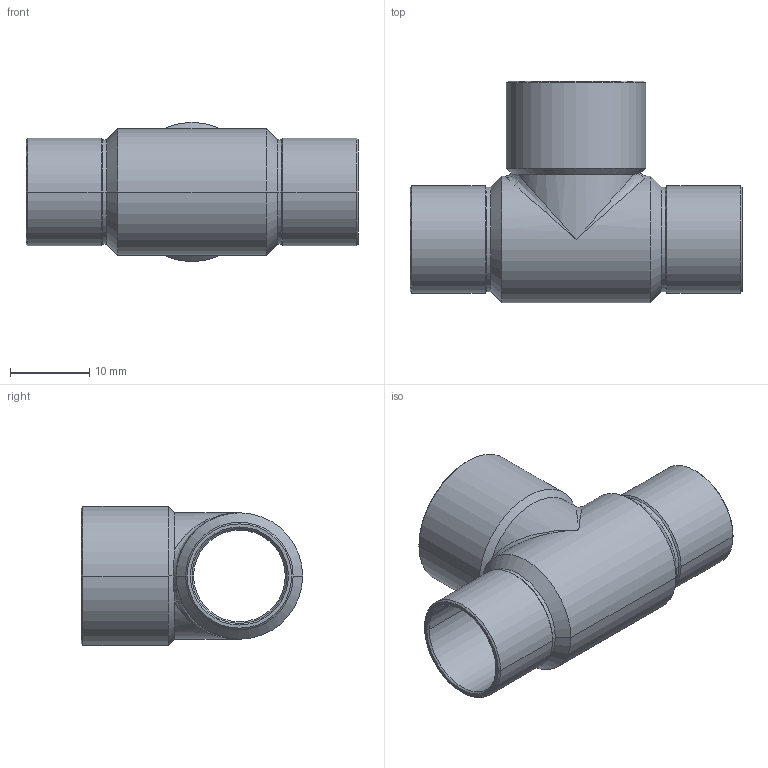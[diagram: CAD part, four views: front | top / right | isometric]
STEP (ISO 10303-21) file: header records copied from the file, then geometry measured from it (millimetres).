
FILE_DESCRIPTION((''),'2;1');
FILE_NAME('P:\Bouwmaten\z-maattekeningen 3D\5000\5130\5130121612.stp','2005-10-26T11:52:30',('Kris'),(''),'Autodesk Inventor 8','Autodesk Inventor 8','');
FILE_SCHEMA(('AUTOMOTIVE_DESIGN { 1 0 10303 214 1 1 1 1 }'));
Length unit declared in the file: millimetre
Products named in the file (1): 5130121612
Bounding box: 42 x 28 x 17.6 mm (x, y, z)
Volume: 1927.1 mm3; surface area: 4970.1 mm2
Topology: 1 solids, 1 shells, 67 faces, 154 edges, 80 vertices
Faces by surface type: cone 28, cylinder 20, bspline 16, plane 3
Entity records: 2403 total; most frequent: CARTESIAN_POINT 938, DIRECTION 322, ORIENTED_EDGE 292, EDGE_CURVE 146, AXIS2_PLACEMENT_3D 132, VERTEX_POINT 80, EDGE_LOOP 70, FACE_OUTER_BOUND 67
